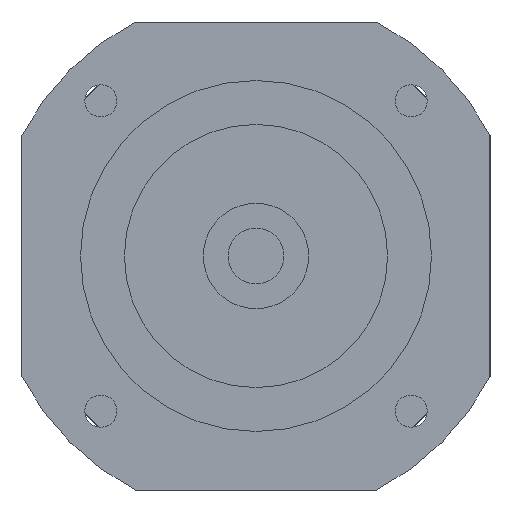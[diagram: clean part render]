
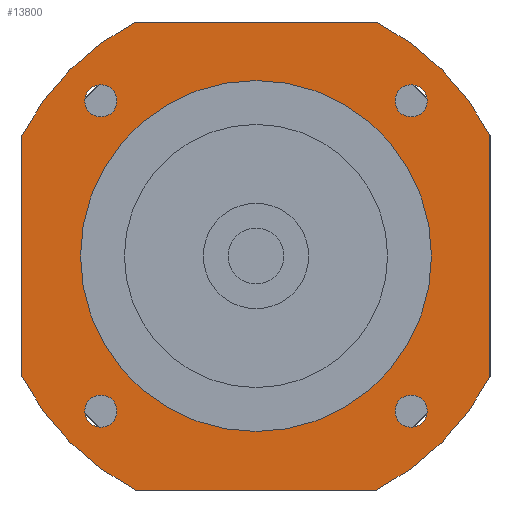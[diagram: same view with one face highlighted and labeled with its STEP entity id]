
A CAD part, left-side view. The second image highlights one B-rep face of the part: STEP entity #13800.
In plain terms, the highlighted planar face has unit normal (-1, 0, 0) as drawn and (0, 0, -1) by its records, which use the part's own axes.
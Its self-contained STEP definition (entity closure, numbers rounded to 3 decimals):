
#8640=CARTESIAN_POINT('',(-20.616,-40.,-42.2));
#8650=VERTEX_POINT('',#8640);
#8700=CARTESIAN_POINT('',(0.,0.,
-42.2));
#8710=DIRECTION('',(0.,0.,-1.));
#8720=DIRECTION('',(1.,0.,0.));
#8730=AXIS2_PLACEMENT_3D('',#8700,#8710,#8720);
#8740=CIRCLE('',#8730,45.);
#8750=CARTESIAN_POINT('',(-40.,-20.616,-42.2));
#8760=VERTEX_POINT('',#8750);
#8770=EDGE_CURVE('',#8650,#8760,#8740,.T.);
#9060=CARTESIAN_POINT('',(40.,-20.616,-42.2));
#9070=VERTEX_POINT('',#9060);
#9120=CARTESIAN_POINT('',(0.,0.,
-42.2));
#9130=DIRECTION('',(0.,0.,-1.));
#9140=DIRECTION('',(1.,0.,0.));
#9150=AXIS2_PLACEMENT_3D('',#9120,#9130,#9140);
#9160=CIRCLE('',#9150,45.);
#9170=CARTESIAN_POINT('',(20.616,-40.,-42.2));
#9180=VERTEX_POINT('',#9170);
#9190=EDGE_CURVE('',#9070,#9180,#9160,.T.);
#12330=CARTESIAN_POINT('',(23.767,-26.517,-42.2));
#12340=VERTEX_POINT('',#12330);
#12370=CARTESIAN_POINT('',(26.517,-26.517,-42.2));
#12380=DIRECTION('',(0.,0.,-1.));
#12390=DIRECTION('',(1.,0.,0.));
#12400=AXIS2_PLACEMENT_3D('',#12370,#12380,#12390);
#12410=CIRCLE('',#12400,2.75);
#12420=CARTESIAN_POINT('',(29.267,-26.517,-42.2));
#12430=VERTEX_POINT('',#12420);
#12440=EDGE_CURVE('',#12430,#12340,#12410,.T.);
#12560=CARTESIAN_POINT('',(40.,40.,-42.2));
#12570=DIRECTION('',(0.,0.,-1.));
#12580=DIRECTION('',(1.,0.,0.));
#12590=AXIS2_PLACEMENT_3D('',#12560,#12570,#12580);
#12600=PLANE('',#12590);
#12610=CARTESIAN_POINT('',(-26.517,-26.517,-42.2));
#12620=DIRECTION('',(0.,0.,-1.));
#12630=DIRECTION('',(0.,-1.,0.));
#12640=AXIS2_PLACEMENT_3D('',#12610,#12620,#12630);
#12650=CIRCLE('',#12640,2.75);
#12660=CARTESIAN_POINT('',(-26.517,-29.267,-42.2));
#12670=VERTEX_POINT('',#12660);
#12680=CARTESIAN_POINT('',(-26.517,-23.767,-42.2));
#12690=VERTEX_POINT('',#12680);
#12700=EDGE_CURVE('',#12670,#12690,#12650,.T.);
#12710=ORIENTED_EDGE('',*,*,#12700,.F.);
#12720=EDGE_CURVE('',#12690,#12670,#12650,.T.);
#12730=ORIENTED_EDGE('',*,*,#12720,.F.);
#12740=EDGE_LOOP('',(#12730,#12710));
#12750=FACE_BOUND('',#12740,.T.);
#12760=CARTESIAN_POINT('',(-26.517,26.517,-42.2));
#12770=DIRECTION('',(0.,0.,-1.));
#12780=DIRECTION('',(-1.,0.,0.));
#12790=AXIS2_PLACEMENT_3D('',#12760,#12770,#12780);
#12800=CIRCLE('',#12790,2.75);
#12810=CARTESIAN_POINT('',(-29.267,26.517,-42.2));
#12820=VERTEX_POINT('',#12810);
#12830=CARTESIAN_POINT('',(-23.767,26.517,-42.2));
#12840=VERTEX_POINT('',#12830);
#12850=EDGE_CURVE('',#12820,#12840,#12800,.T.);
#12860=ORIENTED_EDGE('',*,*,#12850,.F.);
#12870=EDGE_CURVE('',#12840,#12820,#12800,.T.);
#12880=ORIENTED_EDGE('',*,*,#12870,.F.);
#12890=EDGE_LOOP('',(#12880,#12860));
#12900=FACE_BOUND('',#12890,.T.);
#12910=CARTESIAN_POINT('',(26.517,26.517,-42.2));
#12920=DIRECTION('',(0.,0.,-1.));
#12930=DIRECTION('',(0.,1.,0.));
#12940=AXIS2_PLACEMENT_3D('',#12910,#12920,#12930);
#12950=CIRCLE('',#12940,2.75);
#12960=CARTESIAN_POINT('',(26.517,29.267,-42.2));
#12970=VERTEX_POINT('',#12960);
#12980=CARTESIAN_POINT('',(26.517,23.767,-42.2));
#12990=VERTEX_POINT('',#12980);
#13000=EDGE_CURVE('',#12970,#12990,#12950,.T.);
#13010=ORIENTED_EDGE('',*,*,#13000,.F.);
#13020=EDGE_CURVE('',#12990,#12970,#12950,.T.);
#13030=ORIENTED_EDGE('',*,*,#13020,.F.);
#13040=EDGE_LOOP('',(#13030,#13010));
#13050=FACE_BOUND('',#13040,.T.);
#13060=CARTESIAN_POINT('',(0.,0.,
-42.2));
#13070=DIRECTION('',(0.,0.,1.));
#13080=DIRECTION('',(0.,1.,0.));
#13090=AXIS2_PLACEMENT_3D('',#13060,#13070,#13080);
#13100=CIRCLE('',#13090,30.);
#13110=CARTESIAN_POINT('',(-30.,0.,-42.2));
#13120=VERTEX_POINT('',#13110);
#13130=CARTESIAN_POINT('',(30.,0.,-42.2));
#13140=VERTEX_POINT('',#13130);
#13150=EDGE_CURVE('',#13120,#13140,#13100,.T.);
#13160=ORIENTED_EDGE('',*,*,#13150,.T.);
#13170=CARTESIAN_POINT('',(0.,30.,-42.2));
#13180=VERTEX_POINT('',#13170);
#13190=EDGE_CURVE('',#13180,#13120,#13100,.T.);
#13200=ORIENTED_EDGE('',*,*,#13190,.T.);
#13210=EDGE_CURVE('',#13140,#13180,#13100,.T.);
#13220=ORIENTED_EDGE('',*,*,#13210,.T.);
#13230=EDGE_LOOP('',(#13220,#13200,#13160));
#13240=FACE_BOUND('',#13230,.T.);
#13250=CARTESIAN_POINT('',(-40.,40.,-42.2));
#13260=DIRECTION('',(1.,0.,0.));
#13270=VECTOR('',#13260,1000.);
#13280=LINE('',#13250,#13270);
#13290=CARTESIAN_POINT('',(-20.616,40.,-42.2));
#13300=VERTEX_POINT('',#13290);
#13310=CARTESIAN_POINT('',(20.616,40.,-42.2));
#13320=VERTEX_POINT('',#13310);
#13330=EDGE_CURVE('',#13300,#13320,#13280,.T.);
#13340=ORIENTED_EDGE('',*,*,#13330,.T.);
#13350=CARTESIAN_POINT('',(0.,0.,
-42.2));
#13360=DIRECTION('',(0.,0.,-1.));
#13370=DIRECTION('',(1.,0.,0.));
#13380=AXIS2_PLACEMENT_3D('',#13350,#13360,#13370);
#13390=CIRCLE('',#13380,45.);
#13400=CARTESIAN_POINT('',(-40.,20.616,-42.2));
#13410=VERTEX_POINT('',#13400);
#13420=EDGE_CURVE('',#13410,#13300,#13390,.T.);
#13430=ORIENTED_EDGE('',*,*,#13420,.T.);
#13440=CARTESIAN_POINT('',(-40.,-40.,-42.2));
#13450=DIRECTION('',(0.,1.,0.));
#13460=VECTOR('',#13450,1000.);
#13470=LINE('',#13440,#13460);
#13480=EDGE_CURVE('',#8760,#13410,#13470,.T.);
#13490=ORIENTED_EDGE('',*,*,#13480,.T.);
#13500=ORIENTED_EDGE('',*,*,#8770,.T.);
#13510=CARTESIAN_POINT('',(40.,-40.,-42.2));
#13520=DIRECTION('',(-1.,0.,0.));
#13530=VECTOR('',#13520,1000.);
#13540=LINE('',#13510,#13530);
#13550=EDGE_CURVE('',#9180,#8650,#13540,.T.);
#13560=ORIENTED_EDGE('',*,*,#13550,.T.);
#13570=ORIENTED_EDGE('',*,*,#9190,.T.);
#13580=CARTESIAN_POINT('',(40.,40.,-42.2));
#13590=DIRECTION('',(0.,-1.,0.));
#13600=VECTOR('',#13590,1000.);
#13610=LINE('',#13580,#13600);
#13620=CARTESIAN_POINT('',(40.,20.616,-42.2));
#13630=VERTEX_POINT('',#13620);
#13640=EDGE_CURVE('',#13630,#9070,#13610,.T.);
#13650=ORIENTED_EDGE('',*,*,#13640,.T.);
#13660=CARTESIAN_POINT('',(0.,0.,
-42.2));
#13670=DIRECTION('',(0.,0.,-1.));
#13680=DIRECTION('',(1.,0.,0.));
#13690=AXIS2_PLACEMENT_3D('',#13660,#13670,#13680);
#13700=CIRCLE('',#13690,45.);
#13710=EDGE_CURVE('',#13320,#13630,#13700,.T.);
#13720=ORIENTED_EDGE('',*,*,#13710,.T.);
#13730=EDGE_LOOP('',(#13720,#13650,#13570,#13560,#13500,#13490,#13430,
#13340));
#13740=FACE_OUTER_BOUND('',#13730,.T.);
#13750=ORIENTED_EDGE('',*,*,#12440,.F.);
#13760=EDGE_CURVE('',#12340,#12430,#12410,.T.);
#13770=ORIENTED_EDGE('',*,*,#13760,.F.);
#13780=EDGE_LOOP('',(#13770,#13750));
#13790=FACE_BOUND('',#13780,.T.);
#13800=ADVANCED_FACE('',(#12750,#12900,#13050,#13240,#13740,#13790),
#12600,.T.);
